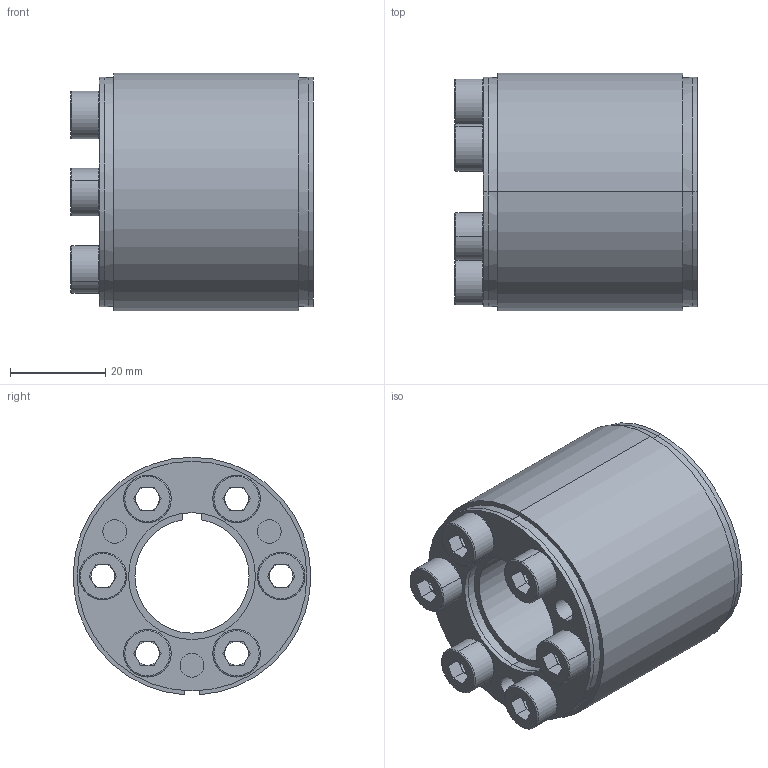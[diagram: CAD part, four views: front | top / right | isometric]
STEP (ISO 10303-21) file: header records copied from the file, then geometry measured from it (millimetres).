
FILE_DESCRIPTION (( 'STEP AP203' ), '1' );
FILE_NAME ('D4-24-50.STEP', '2017-10-14T07:42:13', ( 'MYCOM' ), ( '' ), 'SwSTEP 2.0', 'SolidWorks 2015', '' );
FILE_SCHEMA (( 'CONFIG_CONTROL_DESIGN' ));
Length unit declared in the file: millimetre
Products named in the file (1): D4-24-50
Bounding box: 50.98 x 49.98 x 49.95 mm (x, y, z)
Surface area: 29683.2 mm2 (no closed solid volume)
Topology: 0 solids, 11 shells, 178 faces, 496 edges, 326 vertices
Faces by surface type: plane 90, cylinder 55, torus 24, cone 9
Entity records: 5922 total; most frequent: DIRECTION 1097, CARTESIAN_POINT 1055, ORIENTED_EDGE 874, EDGE_CURVE 496, AXIS2_PLACEMENT_3D 430, VERTEX_POINT 326, CIRCLE 251, LINE 237
